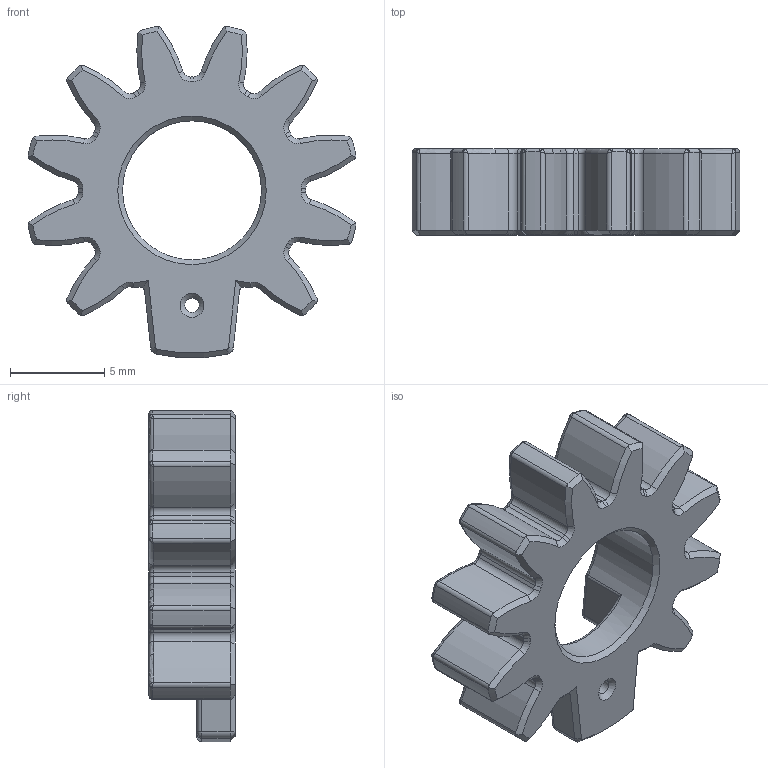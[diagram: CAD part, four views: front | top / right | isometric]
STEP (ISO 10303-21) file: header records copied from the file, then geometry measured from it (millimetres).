
FILE_DESCRIPTION(/* description */ ('STEP AP242','CAx-IF Rec.Pracs.---Representation and Presentation of Product Manufacturing Information (PMI)---4.0---2014-10-13','CAx-IF Rec.Pracs.---3D Tessellated Geometry---0.4---2014-09-14','2;1'),/* implementation_level */ '2;1');
FILE_NAME(/* name */ '6367aa400f60637f9a1af203',/* time_stamp */ '2022-11-06T12:36:17+00:00',/* author */ (''),/* organization */ (''),/* preprocessor_version */ 'ST-DEVELOPER v18.102',/* originating_system */ ' ',/* authorisation */ ' ');
FILE_SCHEMA (('AP242_MANAGED_MODEL_BASED_3D_ENGINEERING_MIM_LF { 1 0 10303 442 1 1 4 }'));
Length unit declared in the file: metre
Products named in the file (1): Servo Gear
Bounding box: 17.38 x 4.57 x 17.56 mm (x, y, z)
Volume: 571.5 mm3; surface area: 741.2 mm2
Topology: 1 solids, 1 shells, 286 faces, 710 edges, 405 vertices
Faces by surface type: cylinder 98, torus 68, cone 65, bspline 40, plane 13, sphere 2
Full cylindrical faces by diameter (mm): 0.762 x1, 7.366 x1
Entity records: 8790 total; most frequent: CARTESIAN_POINT 2331, DIRECTION 1394, ORIENTED_EDGE 1368, EDGE_CURVE 684, AXIS2_PLACEMENT_3D 615, VERTEX_POINT 404, CIRCLE 364, EDGE_LOOP 294
